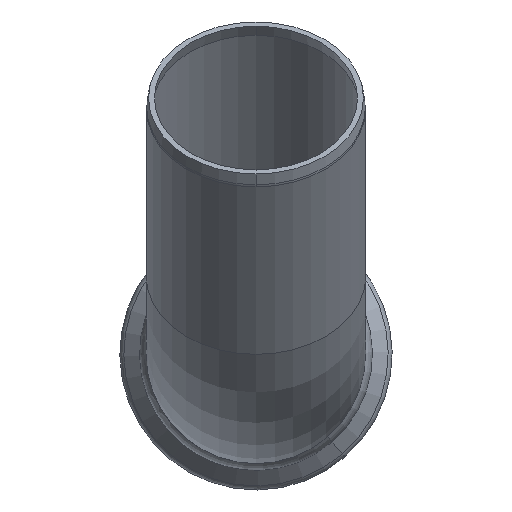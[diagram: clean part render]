
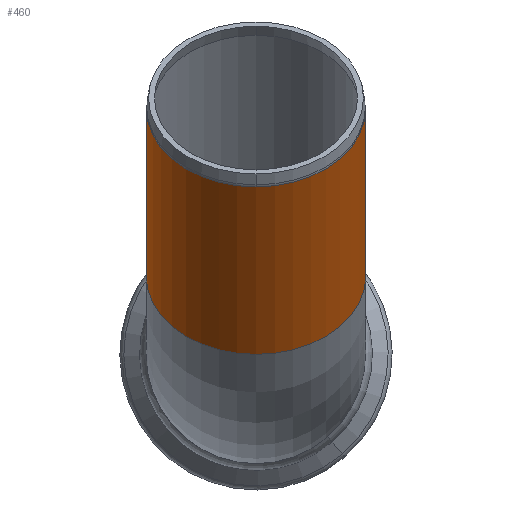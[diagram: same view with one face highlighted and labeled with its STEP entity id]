
A CAD part, left-side view. The second image highlights one B-rep face of the part: STEP entity #460.
In plain terms, the highlighted cylindrical face has radius 33.35 mm (diameter 66.7 mm), a partial arc.
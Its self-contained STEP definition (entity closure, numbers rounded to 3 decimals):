
#10=CARTESIAN_POINT('',(-63.64,0.,30.503));
#20=DIRECTION('',(0.707,-0.,-0.707));
#30=DIRECTION('',(0.,1.,0.));
#40=AXIS2_PLACEMENT_3D('',#10,#20,#30);
#50=CYLINDRICAL_SURFACE('',#40,33.35);
#60=CARTESIAN_POINT('',(-107.539,0.,74.402));
#70=DIRECTION('',(0.707,-0.,-0.707));
#80=DIRECTION('',(-0.707,0.,-0.707));
#90=AXIS2_PLACEMENT_3D('',#60,#70,#80);
#100=CIRCLE('',#90,33.35);
#110=CARTESIAN_POINT('',(-107.539,-33.35,74.402));
#120=VERTEX_POINT('',#110);
#130=CARTESIAN_POINT('',(-131.121,0.,50.82));
#140=VERTEX_POINT('',#130);
#150=EDGE_CURVE('',#120,#140,#100,.T.);
#160=ORIENTED_EDGE('',*,*,#150,.T.);
#170=CARTESIAN_POINT('',(-63.64,-33.35,30.503));
#180=DIRECTION('',(0.707,-0.,-0.707));
#190=VECTOR('',#180,1.);
#200=LINE('',#170,#190);
#210=CARTESIAN_POINT('',(-56.569,-33.35,23.431));
#220=VERTEX_POINT('',#210);
#230=EDGE_CURVE('',#120,#220,#200,.T.);
#240=ORIENTED_EDGE('',*,*,#230,.F.);
#250=CARTESIAN_POINT('',(-56.569,0.,23.431));
#260=DIRECTION('',(-0.707,0.,0.707));
#270=DIRECTION('',(0.,1.,0.));
#280=AXIS2_PLACEMENT_3D('',#250,#260,#270);
#290=CIRCLE('',#280,33.35);
#300=CARTESIAN_POINT('',(-56.569,33.35,23.431));
#310=VERTEX_POINT('',#300);
#320=EDGE_CURVE('',#310,#220,#290,.T.);
#330=ORIENTED_EDGE('',*,*,#320,.T.);
#340=CARTESIAN_POINT('',(-63.64,33.35,30.503));
#350=DIRECTION('',(0.707,-0.,-0.707));
#360=VECTOR('',#350,1.);
#370=LINE('',#340,#360);
#380=CARTESIAN_POINT('',(-107.539,33.35,74.402));
#390=VERTEX_POINT('',#380);
#400=EDGE_CURVE('',#390,#310,#370,.T.);
#410=ORIENTED_EDGE('',*,*,#400,.T.);
#420=EDGE_CURVE('',#140,#390,#100,.T.);
#430=ORIENTED_EDGE('',*,*,#420,.T.);
#440=EDGE_LOOP('',(#430,#410,#330,#240,#160));
#450=FACE_OUTER_BOUND('',#440,.T.);
#460=ADVANCED_FACE('',(#450),#50,.T.);
